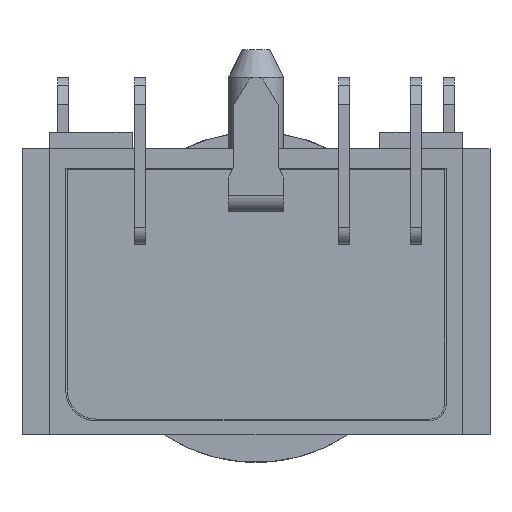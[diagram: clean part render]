
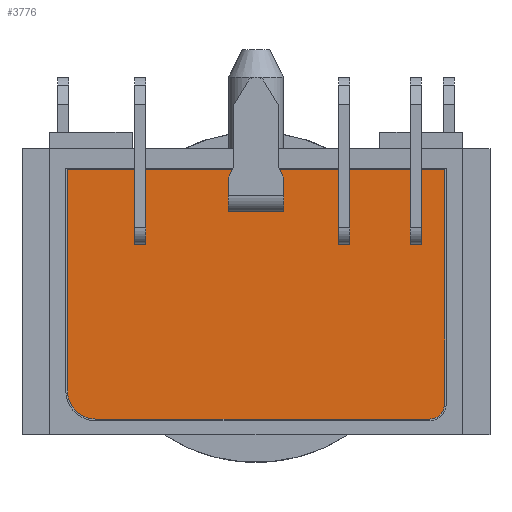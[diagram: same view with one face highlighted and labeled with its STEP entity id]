
A CAD part, front view. The second image highlights one B-rep face of the part: STEP entity #3776.
In plain terms, the highlighted planar face has unit normal (0, -1, 0).
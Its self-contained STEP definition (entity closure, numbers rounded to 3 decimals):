
#17=DIRECTION('',(0.,0.,-1.));
#18=VECTOR('',#17,0.84);
#19=CARTESIAN_POINT('',(-2.,0.,1.55));
#20=LINE('',#19,#18);
#21=DIRECTION('',(1.,0.,0.));
#22=VECTOR('',#21,0.2);
#23=CARTESIAN_POINT('',(-2.2,0.,1.55));
#24=LINE('',#23,#22);
#25=DIRECTION('',(0.,0.,-1.));
#26=VECTOR('',#25,0.84);
#27=CARTESIAN_POINT('',(-2.2,0.,1.55));
#28=LINE('',#27,#26);
#29=DIRECTION('',(1.,0.,0.));
#30=VECTOR('',#29,0.2);
#31=CARTESIAN_POINT('',(-2.2,0.,0.71));
#32=LINE('',#31,#30);
#33=DIRECTION('',(0.,0.,-1.));
#34=VECTOR('',#33,0.84);
#35=CARTESIAN_POINT('',(1.7,0.,1.55));
#36=LINE('',#35,#34);
#37=DIRECTION('',(-1.,0.,0.));
#38=VECTOR('',#37,0.2);
#39=CARTESIAN_POINT('',(1.7,0.,1.55));
#40=LINE('',#39,#38);
#41=DIRECTION('',(0.,0.,-1.));
#42=VECTOR('',#41,0.84);
#43=CARTESIAN_POINT('',(1.5,0.,1.55));
#44=LINE('',#43,#42);
#45=DIRECTION('',(1.,0.,0.));
#46=VECTOR('',#45,0.2);
#47=CARTESIAN_POINT('',(1.5,0.,0.71));
#48=LINE('',#47,#46);
#49=DIRECTION('',(0.,0.,-1.));
#50=VECTOR('',#49,0.2);
#51=CARTESIAN_POINT('',(-0.5,0.,1.5));
#52=LINE('',#51,#50);
#53=DIRECTION('',(1.,0.,0.));
#54=VECTOR('',#53,1.);
#55=CARTESIAN_POINT('',(-0.5,0.,1.3));
#56=LINE('',#55,#54);
#57=DIRECTION('',(0.,0.,-1.));
#58=VECTOR('',#57,0.2);
#59=CARTESIAN_POINT('',(0.5,0.,1.5));
#60=LINE('',#59,#58);
#61=DIRECTION('',(1.,0.,0.));
#62=VECTOR('',#61,1.);
#63=CARTESIAN_POINT('',(-0.5,0.,1.5));
#64=LINE('',#63,#62);
#65=DIRECTION('',(0.,0.,-1.));
#66=VECTOR('',#65,0.84);
#67=CARTESIAN_POINT('',(3.,0.,1.55));
#68=LINE('',#67,#66);
#69=DIRECTION('',(-1.,0.,0.));
#70=VECTOR('',#69,0.2);
#71=CARTESIAN_POINT('',(3.,0.,1.55));
#72=LINE('',#71,#70);
#73=DIRECTION('',(0.,0.,-1.));
#74=VECTOR('',#73,0.84);
#75=CARTESIAN_POINT('',(2.8,0.,1.55));
#76=LINE('',#75,#74);
#77=DIRECTION('',(1.,0.,0.));
#78=VECTOR('',#77,0.2);
#79=CARTESIAN_POINT('',(2.8,0.,0.71));
#80=LINE('',#79,#78);
#107=DIRECTION('',(1.,0.,0.));
#108=VECTOR('',#107,6.849);
#109=CARTESIAN_POINT('',(-3.424,0.,2.067));
#110=LINE('',#109,#108);
#111=DIRECTION('',(0.,0.,-1.));
#112=VECTOR('',#111,4.257);
#113=CARTESIAN_POINT('',(3.424,0.,2.067));
#114=LINE('',#113,#112);
#115=CARTESIAN_POINT('',(3.152,0.,-2.19));
#116=DIRECTION('',(0.,-1.,0.));
#117=DIRECTION('',(0.,0.,-1.));
#118=AXIS2_PLACEMENT_3D('',#115,#116,#117);
#120=DIRECTION('',(-1.,0.,0.));
#121=VECTOR('',#120,6.065);
#122=CARTESIAN_POINT('',(3.152,0.,-2.462));
#123=LINE('',#122,#121);
#124=CARTESIAN_POINT('',(-2.912,0.,-1.95));
#125=DIRECTION('',(0.,-1.,0.));
#126=DIRECTION('',(-1.,0.,0.));
#127=AXIS2_PLACEMENT_3D('',#124,#125,#126);
#129=DIRECTION('',(0.,0.,1.));
#130=VECTOR('',#129,4.016);
#131=CARTESIAN_POINT('',(-3.424,0.,-1.95));
#132=LINE('',#131,#130);
#3219=CARTESIAN_POINT('',(-0.5,0.,1.5));
#3220=CARTESIAN_POINT('',(-0.5,0.,1.3));
#3221=VERTEX_POINT('',#3219);
#3222=VERTEX_POINT('',#3220);
#3223=CARTESIAN_POINT('',(0.5,0.,1.5));
#3224=CARTESIAN_POINT('',(0.5,0.,1.3));
#3225=VERTEX_POINT('',#3223);
#3226=VERTEX_POINT('',#3224);
#3267=CARTESIAN_POINT('',(3.152,0.,-2.462));
#3268=CARTESIAN_POINT('',(-2.912,0.,-2.462));
#3269=VERTEX_POINT('',#3267);
#3270=VERTEX_POINT('',#3268);
#3271=CARTESIAN_POINT('',(-3.424,0.,-1.95));
#3272=VERTEX_POINT('',#3271);
#3273=CARTESIAN_POINT('',(-3.424,0.,2.067));
#3274=VERTEX_POINT('',#3273);
#3275=CARTESIAN_POINT('',(3.424,0.,2.067));
#3276=CARTESIAN_POINT('',(3.424,0.,-2.19));
#3277=VERTEX_POINT('',#3275);
#3278=VERTEX_POINT('',#3276);
#3291=CARTESIAN_POINT('',(1.5,0.,0.71));
#3292=CARTESIAN_POINT('',(1.7,0.,0.71));
#3293=VERTEX_POINT('',#3291);
#3294=VERTEX_POINT('',#3292);
#3295=CARTESIAN_POINT('',(2.8,0.,0.71));
#3296=CARTESIAN_POINT('',(3.,0.,0.71));
#3297=VERTEX_POINT('',#3295);
#3298=VERTEX_POINT('',#3296);
#3299=CARTESIAN_POINT('',(-2.2,0.,0.71));
#3300=CARTESIAN_POINT('',(-2.,0.,0.71));
#3301=VERTEX_POINT('',#3299);
#3302=VERTEX_POINT('',#3300);
#3303=CARTESIAN_POINT('',(1.7,0.,1.55));
#3304=VERTEX_POINT('',#3303);
#3305=CARTESIAN_POINT('',(1.5,0.,1.55));
#3306=VERTEX_POINT('',#3305);
#3307=CARTESIAN_POINT('',(3.,0.,1.55));
#3308=VERTEX_POINT('',#3307);
#3309=CARTESIAN_POINT('',(2.8,0.,1.55));
#3310=VERTEX_POINT('',#3309);
#3311=CARTESIAN_POINT('',(-2.2,0.,1.55));
#3312=CARTESIAN_POINT('',(-2.,0.,1.55));
#3313=VERTEX_POINT('',#3311);
#3314=VERTEX_POINT('',#3312);
#3717=CARTESIAN_POINT('',(0.,0.,0.));
#3718=DIRECTION('',(0.,1.,0.));
#3719=DIRECTION('',(1.,0.,0.));
#3720=AXIS2_PLACEMENT_3D('',#3717,#3718,#3719);
#3721=PLANE('',#3720);
#3723=ORIENTED_EDGE('',*,*,#3722,.T.);
#3725=ORIENTED_EDGE('',*,*,#3724,.T.);
#3727=ORIENTED_EDGE('',*,*,#3726,.F.);
#3729=ORIENTED_EDGE('',*,*,#3728,.T.);
#3731=ORIENTED_EDGE('',*,*,#3730,.F.);
#3733=ORIENTED_EDGE('',*,*,#3732,.T.);
#3734=EDGE_LOOP('',(#3723,#3725,#3727,#3729,#3731,#3733));
#3735=FACE_OUTER_BOUND('',#3734,.F.);
#3737=ORIENTED_EDGE('',*,*,#3736,.F.);
#3739=ORIENTED_EDGE('',*,*,#3738,.F.);
#3741=ORIENTED_EDGE('',*,*,#3740,.T.);
#3743=ORIENTED_EDGE('',*,*,#3742,.T.);
#3744=EDGE_LOOP('',(#3737,#3739,#3741,#3743));
#3745=FACE_BOUND('',#3744,.F.);
#3747=ORIENTED_EDGE('',*,*,#3746,.F.);
#3749=ORIENTED_EDGE('',*,*,#3748,.T.);
#3751=ORIENTED_EDGE('',*,*,#3750,.T.);
#3753=ORIENTED_EDGE('',*,*,#3752,.T.);
#3754=EDGE_LOOP('',(#3747,#3749,#3751,#3753));
#3755=FACE_BOUND('',#3754,.F.);
#3757=ORIENTED_EDGE('',*,*,#3756,.T.);
#3759=ORIENTED_EDGE('',*,*,#3758,.T.);
#3761=ORIENTED_EDGE('',*,*,#3760,.F.);
#3763=ORIENTED_EDGE('',*,*,#3762,.F.);
#3764=EDGE_LOOP('',(#3757,#3759,#3761,#3763));
#3765=FACE_BOUND('',#3764,.F.);
#3767=ORIENTED_EDGE('',*,*,#3766,.F.);
#3769=ORIENTED_EDGE('',*,*,#3768,.T.);
#3771=ORIENTED_EDGE('',*,*,#3770,.T.);
#3773=ORIENTED_EDGE('',*,*,#3772,.T.);
#3774=EDGE_LOOP('',(#3767,#3769,#3771,#3773));
#3775=FACE_BOUND('',#3774,.F.);
#119=CIRCLE('',#118,0.272);
#128=CIRCLE('',#127,0.512);
#3722=EDGE_CURVE('',#3274,#3277,#110,.T.);
#3724=EDGE_CURVE('',#3277,#3278,#114,.T.);
#3726=EDGE_CURVE('',#3269,#3278,#119,.T.);
#3728=EDGE_CURVE('',#3269,#3270,#123,.T.);
#3730=EDGE_CURVE('',#3272,#3270,#128,.T.);
#3732=EDGE_CURVE('',#3272,#3274,#132,.T.);
#3736=EDGE_CURVE('',#3314,#3302,#20,.T.);
#3738=EDGE_CURVE('',#3313,#3314,#24,.T.);
#3740=EDGE_CURVE('',#3313,#3301,#28,.T.);
#3742=EDGE_CURVE('',#3301,#3302,#32,.T.);
#3746=EDGE_CURVE('',#3304,#3294,#36,.T.);
#3748=EDGE_CURVE('',#3304,#3306,#40,.T.);
#3750=EDGE_CURVE('',#3306,#3293,#44,.T.);
#3752=EDGE_CURVE('',#3293,#3294,#48,.T.);
#3756=EDGE_CURVE('',#3221,#3222,#52,.T.);
#3758=EDGE_CURVE('',#3222,#3226,#56,.T.);
#3760=EDGE_CURVE('',#3225,#3226,#60,.T.);
#3762=EDGE_CURVE('',#3221,#3225,#64,.T.);
#3766=EDGE_CURVE('',#3308,#3298,#68,.T.);
#3768=EDGE_CURVE('',#3308,#3310,#72,.T.);
#3770=EDGE_CURVE('',#3310,#3297,#76,.T.);
#3772=EDGE_CURVE('',#3297,#3298,#80,.T.);
#3776=ADVANCED_FACE('',(#3735,#3745,#3755,#3765,#3775),#3721,.F.);
